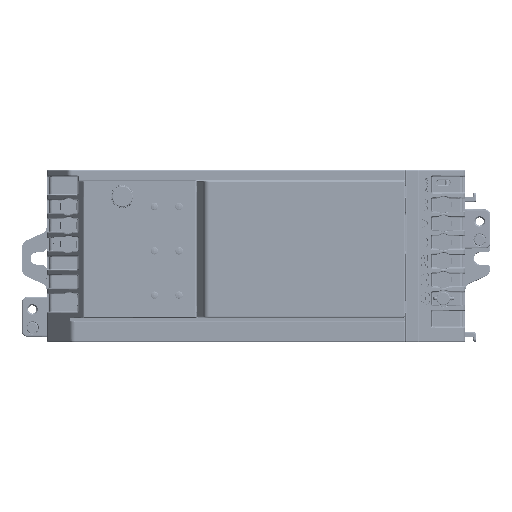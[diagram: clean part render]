
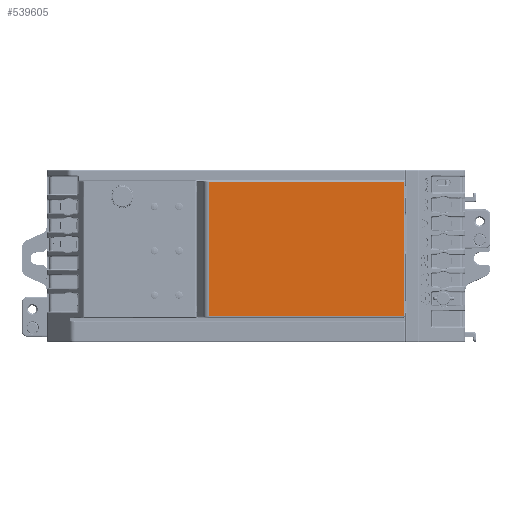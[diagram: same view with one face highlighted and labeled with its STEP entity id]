
A CAD part, left-side view. The second image highlights one B-rep face of the part: STEP entity #539605.
In plain terms, the highlighted planar face has unit normal (-1, 0, 0).
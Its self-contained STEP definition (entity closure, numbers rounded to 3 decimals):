
#534964=CARTESIAN_POINT('',(-129.5,-39.8,54.7));
#534965=DIRECTION('',(1.,0.,0.));
#534966=DIRECTION('',(0.,0.,1.));
#534967=AXIS2_PLACEMENT_3D('',#534964,#534965,#534966);
#534969=CARTESIAN_POINT('',(-129.5,-39.8,0.8));
#534970=DIRECTION('',(1.,0.,0.));
#534971=DIRECTION('',(0.,-1.,0.));
#534972=AXIS2_PLACEMENT_3D('',#534969,#534970,#534971);
#534974=DIRECTION('',(0.,1.,0.));
#534975=VECTOR('',#534974,78.75);
#534976=CARTESIAN_POINT('',(-129.5,-39.8,55.));
#534977=LINE('',#534976,#534975);
#534997=DIRECTION('',(0.,0.,-1.));
#534998=VECTOR('',#534997,54.5);
#534999=CARTESIAN_POINT('',(-129.5,38.95,55.));
#535000=LINE('',#534999,#534998);
#535020=DIRECTION('',(0.,-1.,0.));
#535021=VECTOR('',#535020,78.75);
#535022=CARTESIAN_POINT('',(-129.5,38.95,0.5));
#535023=LINE('',#535022,#535021);
#535043=DIRECTION('',(0.,0.,1.));
#535044=VECTOR('',#535043,53.9);
#535045=CARTESIAN_POINT('',(-129.5,-40.1,0.8));
#535046=LINE('',#535045,#535044);
#538463=CARTESIAN_POINT('',(-129.5,-39.8,55.));
#538464=CARTESIAN_POINT('',(-129.5,-40.1,54.7));
#538465=VERTEX_POINT('',#538463);
#538466=VERTEX_POINT('',#538464);
#538467=CARTESIAN_POINT('',(-129.5,38.95,55.));
#538468=VERTEX_POINT('',#538467);
#538469=CARTESIAN_POINT('',(-129.5,-40.1,0.8));
#538470=VERTEX_POINT('',#538469);
#538471=CARTESIAN_POINT('',(-129.5,-39.8,0.5));
#538472=VERTEX_POINT('',#538471);
#538473=CARTESIAN_POINT('',(-129.5,38.95,0.5));
#538474=VERTEX_POINT('',#538473);
#539587=CARTESIAN_POINT('',(-129.5,-0.575,27.75));
#539588=DIRECTION('',(1.,0.,0.));
#539589=DIRECTION('',(0.,-1.,0.));
#539590=AXIS2_PLACEMENT_3D('',#539587,#539588,#539589);
#539591=PLANE('',#539590);
#539593=ORIENTED_EDGE('',*,*,#539592,.F.);
#539594=ORIENTED_EDGE('',*,*,#539577,.T.);
#539596=ORIENTED_EDGE('',*,*,#539595,.F.);
#539598=ORIENTED_EDGE('',*,*,#539597,.T.);
#539600=ORIENTED_EDGE('',*,*,#539599,.F.);
#539602=ORIENTED_EDGE('',*,*,#539601,.F.);
#539603=EDGE_LOOP('',(#539593,#539594,#539596,#539598,#539600,#539602));
#539604=FACE_OUTER_BOUND('',#539603,.F.);
#539605=ADVANCED_FACE('',(#539604),#539591,.F.);
#534968=CIRCLE('',#534967,0.3);
#534973=CIRCLE('',#534972,0.3);
#539577=EDGE_CURVE('',#538465,#538466,#534968,.T.);
#539592=EDGE_CURVE('',#538465,#538468,#534977,.T.);
#539595=EDGE_CURVE('',#538470,#538466,#535046,.T.);
#539597=EDGE_CURVE('',#538470,#538472,#534973,.T.);
#539599=EDGE_CURVE('',#538474,#538472,#535023,.T.);
#539601=EDGE_CURVE('',#538468,#538474,#535000,.T.);
